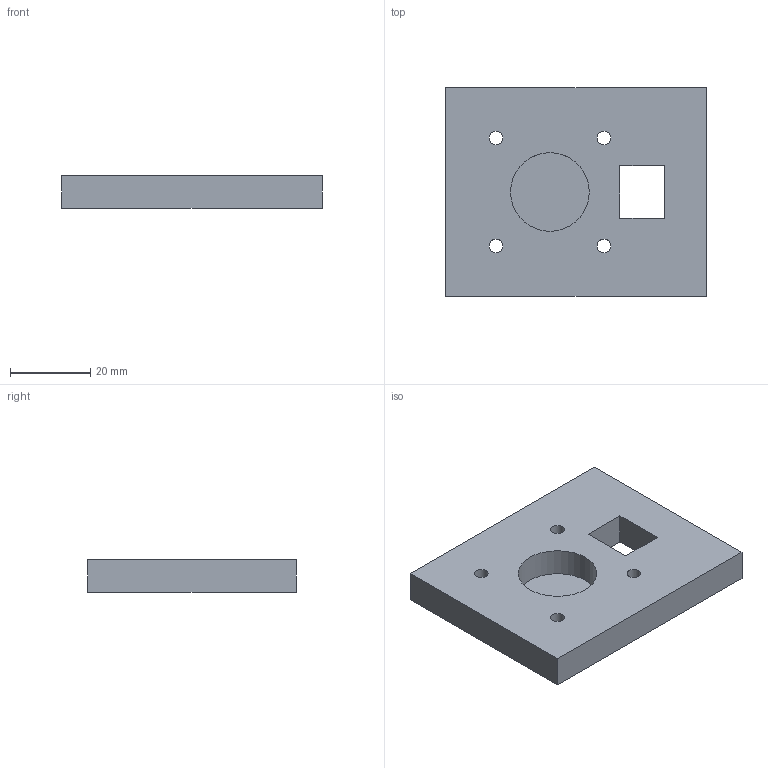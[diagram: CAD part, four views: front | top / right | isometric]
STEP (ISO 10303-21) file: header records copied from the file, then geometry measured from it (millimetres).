
FILE_DESCRIPTION(('Open CASCADE Model'),'2;1');
FILE_NAME('Open CASCADE Shape Model','2026-11-12T20:35:42',('Author'),( 'Open CASCADE'),'Open CASCADE STEP processor 7.9','Open CASCADE 7.9' ,'Unknown');
FILE_SCHEMA(('AUTOMOTIVE_DESIGN { 1 0 10303 214 1 1 1 1 }'));
Length unit declared in the file: millimetre
Products named in the file (1): Open CASCADE STEP translator 7.9 4
Bounding box: 65 x 52 x 8 mm (x, y, z)
Volume: 23454.7 mm3; surface area: 9426.9 mm2
Topology: 1 solids, 1 shells, 16 faces, 39 edges, 26 vertices
Faces by surface type: plane 11, cylinder 5
Full cylindrical faces by diameter (mm): 3.4 x4, 19.6 x1
Entity records: 1010 total; most frequent: DIRECTION 161, CARTESIAN_POINT 160, LINE 97, VECTOR 97, ORIENTED_EDGE 78, PCURVE 78, DEFINITIONAL_REPRESENTATION 78, EDGE_CURVE 39
